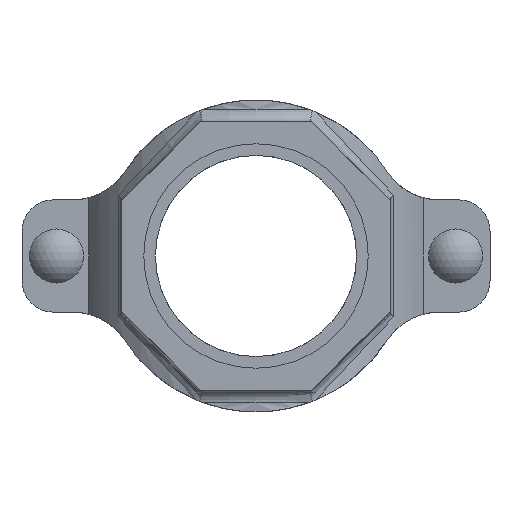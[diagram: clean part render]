
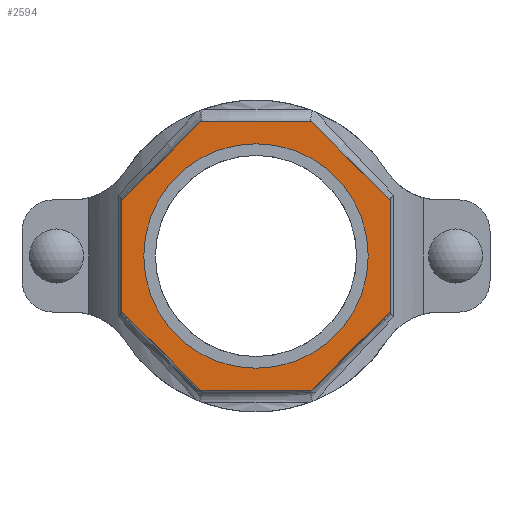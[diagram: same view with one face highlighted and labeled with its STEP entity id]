
A CAD part, front view. The second image highlights one B-rep face of the part: STEP entity #2594.
In plain terms, the highlighted planar face has unit normal (0, -1, 0) as drawn and (0, 1, 0) by its records, which use the part's own axes.
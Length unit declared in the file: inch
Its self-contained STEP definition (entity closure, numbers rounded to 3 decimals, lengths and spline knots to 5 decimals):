
#206=FACE_BOUND('',#478,.T.);
#326=FACE_OUTER_BOUND('',#477,.T.);
#477=EDGE_LOOP('',(#2170,#2171,#2172,#2173,#2174,#2175,#2176,#2177));
#478=EDGE_LOOP('',(#2178));
#615=LINE('',#5010,#797);
#618=LINE('',#5015,#800);
#620=LINE('',#5019,#802);
#622=LINE('',#5023,#804);
#654=LINE('',#5332,#836);
#656=LINE('',#5336,#838);
#658=LINE('',#5340,#840);
#660=LINE('',#5343,#842);
#797=VECTOR('',#3337,0.3937);
#800=VECTOR('',#3342,0.3937);
#802=VECTOR('',#3346,0.3937);
#804=VECTOR('',#3350,0.3937);
#836=VECTOR('',#3460,0.3937);
#838=VECTOR('',#3464,0.3937);
#840=VECTOR('',#3468,0.3937);
#842=VECTOR('',#3472,0.3937);
#925=CIRCLE('',#2853,2.25);
#1123=VERTEX_POINT('',#5007);
#1124=VERTEX_POINT('',#5009);
#1125=VERTEX_POINT('',#5013);
#1126=VERTEX_POINT('',#5017);
#1127=VERTEX_POINT('',#5021);
#1146=VERTEX_POINT('',#5144);
#1171=VERTEX_POINT('',#5331);
#1172=VERTEX_POINT('',#5335);
#1173=VERTEX_POINT('',#5339);
#1447=EDGE_CURVE('',#1124,#1123,#615,.T.);
#1450=EDGE_CURVE('',#1123,#1125,#618,.T.);
#1452=EDGE_CURVE('',#1125,#1126,#620,.T.);
#1454=EDGE_CURVE('',#1126,#1127,#622,.T.);
#1482=EDGE_CURVE('',#1146,#1146,#925,.T.);
#1515=EDGE_CURVE('',#1171,#1124,#654,.T.);
#1517=EDGE_CURVE('',#1172,#1171,#656,.T.);
#1519=EDGE_CURVE('',#1173,#1172,#658,.T.);
#1521=EDGE_CURVE('',#1127,#1173,#660,.T.);
#2170=ORIENTED_EDGE('',*,*,#1521,.T.);
#2171=ORIENTED_EDGE('',*,*,#1519,.T.);
#2172=ORIENTED_EDGE('',*,*,#1517,.T.);
#2173=ORIENTED_EDGE('',*,*,#1515,.T.);
#2174=ORIENTED_EDGE('',*,*,#1447,.T.);
#2175=ORIENTED_EDGE('',*,*,#1450,.T.);
#2176=ORIENTED_EDGE('',*,*,#1452,.T.);
#2177=ORIENTED_EDGE('',*,*,#1454,.T.);
#2178=ORIENTED_EDGE('',*,*,#1482,.T.);
#2332=PLANE('',#2876);
#2594=ADVANCED_FACE('',(#326,#206),#2332,.T.);
#2853=AXIS2_PLACEMENT_3D('',#5145,#3406,#3407);
#2876=AXIS2_PLACEMENT_3D('',#5344,#3473,#3474);
#3337=DIRECTION('',(0.,0.,1.));
#3342=DIRECTION('',(0.707,0.,0.707));
#3346=DIRECTION('',(1.,0.,0.));
#3350=DIRECTION('',(0.707,0.,-0.707));
#3406=DIRECTION('center_axis',(0.,-1.,0.));
#3407=DIRECTION('ref_axis',(-1.,0.,0.));
#3460=DIRECTION('',(-0.707,0.,0.707));
#3464=DIRECTION('',(-1.,0.,0.));
#3468=DIRECTION('',(-0.707,0.,-0.707));
#3472=DIRECTION('',(0.,0.,-1.));
#3473=DIRECTION('center_axis',(0.,1.,0.));
#3474=DIRECTION('ref_axis',(0.,0.,1.));
#5007=CARTESIAN_POINT('',(-2.69,5.75,1.11423));
#5009=CARTESIAN_POINT('',(-2.69,5.75,-1.11423));
#5010=CARTESIAN_POINT('',(-2.69,5.75,1.11423));
#5013=CARTESIAN_POINT('',(-1.11423,5.75,2.69));
#5015=CARTESIAN_POINT('',(-1.11423,5.75,2.69));
#5017=CARTESIAN_POINT('',(1.11423,5.75,2.69));
#5019=CARTESIAN_POINT('',(1.11423,5.75,2.69));
#5021=CARTESIAN_POINT('',(2.69,5.75,1.11423));
#5023=CARTESIAN_POINT('',(2.69,5.75,1.11423));
#5144=CARTESIAN_POINT('',(2.25,5.75,0.));
#5145=CARTESIAN_POINT('Origin',(0.,5.75,0.));
#5331=CARTESIAN_POINT('',(-1.11423,5.75,-2.69));
#5332=CARTESIAN_POINT('',(-2.69,5.75,-1.11423));
#5335=CARTESIAN_POINT('',(1.11423,5.75,-2.69));
#5336=CARTESIAN_POINT('',(-1.11423,5.75,-2.69));
#5339=CARTESIAN_POINT('',(2.69,5.75,-1.11423));
#5340=CARTESIAN_POINT('',(1.11423,5.75,-2.69));
#5343=CARTESIAN_POINT('',(2.69,5.75,-1.11423));
#5344=CARTESIAN_POINT('Origin',(0.,5.75,0.));
